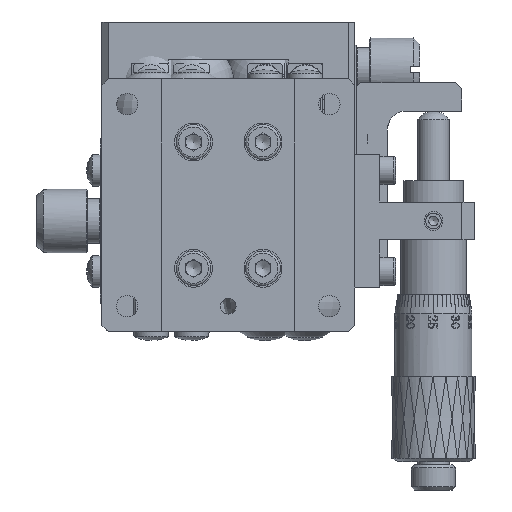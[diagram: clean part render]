
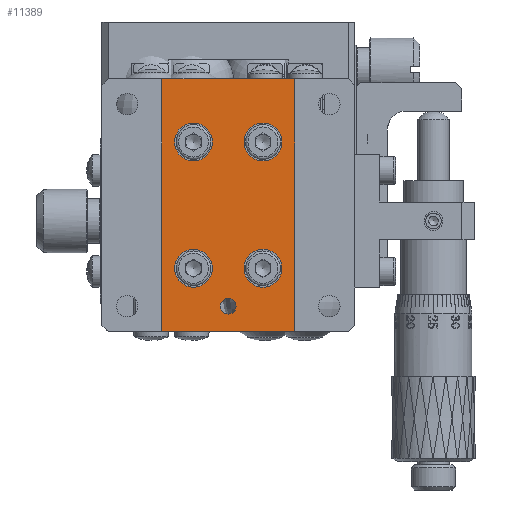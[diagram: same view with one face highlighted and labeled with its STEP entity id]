
A CAD part, front view. The second image highlights one B-rep face of the part: STEP entity #11389.
In plain terms, the highlighted planar face has unit normal (0, -1, 0).
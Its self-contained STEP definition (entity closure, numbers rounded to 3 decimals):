
#270 = DIRECTION ( 'NONE',  ( 0., -1., 0. ) ) ;
#1059 = LINE ( 'NONE', #47361, #17683 ) ;
#1162 = ORIENTED_EDGE ( 'NONE', *, *, #12524, .F. ) ;
#3256 = LINE ( 'NONE', #5516, #149997 ) ;
#3563 = DIRECTION ( 'NONE',  ( 0., 0., -1. ) ) ;
#5065 = FACE_BOUND ( 'NONE', #143410, .T. ) ;
#5073 = VERTEX_POINT ( 'NONE', #97509 ) ;
#5516 = CARTESIAN_POINT ( 'NONE',  ( 10.5, -19.5, -31. ) ) ;
#11389 = ADVANCED_FACE ( 'NONE', ( #83314, #109088, #5065, #144086, #49879, #76973 ), #71903, .F. ) ;
#12445 = ORIENTED_EDGE ( 'NONE', *, *, #45573, .T. ) ;
#12524 = EDGE_CURVE ( 'NONE', #140638, #140638, #32813, .T. ) ;
#17683 = VECTOR ( 'NONE', #93726, 1000. ) ;
#18323 = CIRCLE ( 'NONE', #23242, 1.25 ) ;
#18850 = VERTEX_POINT ( 'NONE', #89442 ) ;
#19124 = VERTEX_POINT ( 'NONE', #31271 ) ;
#20178 = VECTOR ( 'NONE', #22793, 1000. ) ;
#21725 = VECTOR ( 'NONE', #57725, 1000. ) ;
#22345 = DIRECTION ( 'NONE',  ( 0., -1., 0. ) ) ;
#22793 = DIRECTION ( 'NONE',  ( 1., 0., 0. ) ) ;
#23033 = EDGE_LOOP ( 'NONE', ( #107605, #131962, #91036, #85095 ) ) ;
#23242 = AXIS2_PLACEMENT_3D ( 'NONE', #48026, #45791, #92150 ) ;
#23818 = DIRECTION ( 'NONE',  ( 0., 0., -1. ) ) ;
#27738 = AXIS2_PLACEMENT_3D ( 'NONE', #92207, #22345, #23818 ) ;
#31271 = CARTESIAN_POINT ( 'NONE',  ( 5.5, -19.5, -24. ) ) ;
#31274 = CARTESIAN_POINT ( 'NONE',  ( -10.5, -19.5, 9. ) ) ;
#31579 = CARTESIAN_POINT ( 'NONE',  ( 5.5, -19.5, -1. ) ) ;
#32813 = CIRCLE ( 'NONE', #52204, 3. ) ;
#34684 = VERTEX_POINT ( 'NONE', #80233 ) ;
#35981 = EDGE_CURVE ( 'NONE', #36619, #45266, #123854, .T. ) ;
#36619 = VERTEX_POINT ( 'NONE', #66508 ) ;
#38571 = AXIS2_PLACEMENT_3D ( 'NONE', #91241, #69151, #125412 ) ;
#42574 = ORIENTED_EDGE ( 'NONE', *, *, #138198, .F. ) ;
#45266 = VERTEX_POINT ( 'NONE', #140928 ) ;
#45573 = EDGE_CURVE ( 'NONE', #34684, #34684, #18323, .T. ) ;
#45791 = DIRECTION ( 'NONE',  ( 0., 1., 0. ) ) ;
#47361 = CARTESIAN_POINT ( 'NONE',  ( 10.5, -19.5, 9. ) ) ;
#48026 = CARTESIAN_POINT ( 'NONE',  ( 0., -19.5, -27. ) ) ;
#49879 = FACE_BOUND ( 'NONE', #121811, .T. ) ;
#52204 = AXIS2_PLACEMENT_3D ( 'NONE', #31579, #78616, #115024 ) ;
#54161 = DIRECTION ( 'NONE',  ( 0., 1., 0. ) ) ;
#57725 = DIRECTION ( 'NONE',  ( 0., 0., -1. ) ) ;
#64339 = AXIS2_PLACEMENT_3D ( 'NONE', #84061, #54161, #3563 ) ;
#66132 = CARTESIAN_POINT ( 'NONE',  ( 10.5, -19.5, 9. ) ) ;
#66508 = CARTESIAN_POINT ( 'NONE',  ( -10.5, -19.5, 9. ) ) ;
#69151 = DIRECTION ( 'NONE',  ( 0., -1., 0. ) ) ;
#71903 = PLANE ( 'NONE',  #64339 ) ;
#73020 = EDGE_CURVE ( 'NONE', #45266, #5073, #1059, .T. ) ;
#74161 = VERTEX_POINT ( 'NONE', #87419 ) ;
#76973 = FACE_BOUND ( 'NONE', #86357, .T. ) ;
#78390 = EDGE_LOOP ( 'NONE', ( #12445 ) ) ;
#78616 = DIRECTION ( 'NONE',  ( 0., -1., 0. ) ) ;
#79042 = LINE ( 'NONE', #31274, #21725 ) ;
#80233 = CARTESIAN_POINT ( 'NONE',  ( 0., -19.5, -28.25 ) ) ;
#83314 = FACE_BOUND ( 'NONE', #78390, .T. ) ;
#84061 = CARTESIAN_POINT ( 'NONE',  ( 10.5, -19.5, 9. ) ) ;
#85095 = ORIENTED_EDGE ( 'NONE', *, *, #148957, .T. ) ;
#85207 = EDGE_CURVE ( 'NONE', #74161, #5073, #3256, .T. ) ;
#86357 = EDGE_LOOP ( 'NONE', ( #42574 ) ) ;
#86747 = DIRECTION ( 'NONE',  ( 1., 0., 0. ) ) ;
#87419 = CARTESIAN_POINT ( 'NONE',  ( -10.5, -19.5, -31. ) ) ;
#87636 = ORIENTED_EDGE ( 'NONE', *, *, #90477, .F. ) ;
#89442 = CARTESIAN_POINT ( 'NONE',  ( -5.5, -19.5, -24. ) ) ;
#90477 = EDGE_CURVE ( 'NONE', #101957, #101957, #108920, .T. ) ;
#91036 = ORIENTED_EDGE ( 'NONE', *, *, #35981, .F. ) ;
#91241 = CARTESIAN_POINT ( 'NONE',  ( -5.5, -19.5, -1. ) ) ;
#92150 = DIRECTION ( 'NONE',  ( 0., 0., -1. ) ) ;
#92207 = CARTESIAN_POINT ( 'NONE',  ( -5.5, -19.5, -21. ) ) ;
#93222 = CIRCLE ( 'NONE', #27738, 3. ) ;
#93726 = DIRECTION ( 'NONE',  ( 0., 0., -1. ) ) ;
#95797 = CARTESIAN_POINT ( 'NONE',  ( 5.5, -19.5, -4. ) ) ;
#97509 = CARTESIAN_POINT ( 'NONE',  ( 10.5, -19.5, -31. ) ) ;
#101957 = VERTEX_POINT ( 'NONE', #106213 ) ;
#106213 = CARTESIAN_POINT ( 'NONE',  ( -5.5, -19.5, -4. ) ) ;
#106845 = EDGE_CURVE ( 'NONE', #18850, #18850, #93222, .T. ) ;
#107605 = ORIENTED_EDGE ( 'NONE', *, *, #85207, .T. ) ;
#107857 = CIRCLE ( 'NONE', #132132, 3. ) ;
#108920 = CIRCLE ( 'NONE', #38571, 3. ) ;
#109078 = EDGE_LOOP ( 'NONE', ( #1162 ) ) ;
#109088 = FACE_BOUND ( 'NONE', #109078, .T. ) ;
#115024 = DIRECTION ( 'NONE',  ( 0., 0., -1. ) ) ;
#117189 = CARTESIAN_POINT ( 'NONE',  ( 5.5, -19.5, -21. ) ) ;
#121811 = EDGE_LOOP ( 'NONE', ( #87636 ) ) ;
#123854 = LINE ( 'NONE', #66132, #20178 ) ;
#125412 = DIRECTION ( 'NONE',  ( 0., 0., -1. ) ) ;
#131962 = ORIENTED_EDGE ( 'NONE', *, *, #73020, .F. ) ;
#132132 = AXIS2_PLACEMENT_3D ( 'NONE', #117189, #270, #149935 ) ;
#132140 = ORIENTED_EDGE ( 'NONE', *, *, #106845, .F. ) ;
#138198 = EDGE_CURVE ( 'NONE', #19124, #19124, #107857, .T. ) ;
#140638 = VERTEX_POINT ( 'NONE', #95797 ) ;
#140928 = CARTESIAN_POINT ( 'NONE',  ( 10.5, -19.5, 9. ) ) ;
#143410 = EDGE_LOOP ( 'NONE', ( #132140 ) ) ;
#144086 = FACE_OUTER_BOUND ( 'NONE', #23033, .T. ) ;
#148957 = EDGE_CURVE ( 'NONE', #36619, #74161, #79042, .T. ) ;
#149935 = DIRECTION ( 'NONE',  ( 0., 0., -1. ) ) ;
#149997 = VECTOR ( 'NONE', #86747, 1000. ) ;
